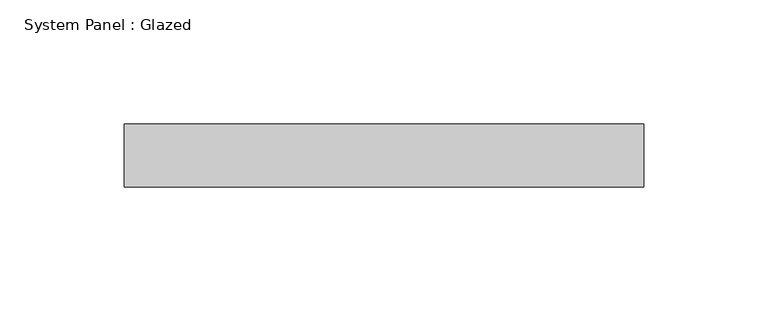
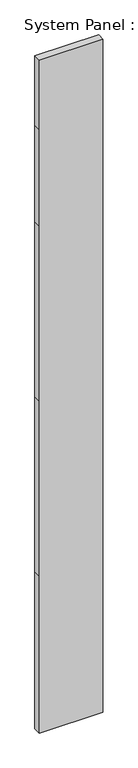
"""IFC4 building model written with IfcOpenShell, lengths in millimetres: plate geometry, System Panel : Glazed."""

from ifc_helpers import new_model, si_unit, frame, origin, place, context, project, spatial, polyline, outline, extrude, source, transform, mapped, element, save


def system_panel_glazed_9c9336f7(model_context):
    return source(origin(), model_context, "Body", "SweptSolid", [
        extrude(outline(polyline([(0.0, -104.775), (0.0, 104.775), (546.1, 104.775), (1155.7, 104.775), (1765.3, 104.775), (2101.85, 104.775), (2343.15, 104.775), (2343.15, -104.775), (2101.85, -104.775), (1765.3, -104.775), (1155.7, -104.775), (546.1, -104.775), (0.0, -104.775)])), frame((0.0, -44.45, 0.0), z_axis=(0.0, 1.0, 0.0), x_axis=(0.0, 0.0, 1.0)), (0.0, 0.0, 1.0), 25.4),
    ])


if __name__ == "__main__":
    model = new_model("IFC4")
    model_context = context("Model", 3, world=origin())
    ifc_project = project(units=[si_unit("LENGTHUNIT", "METRE", prefix="MILLI")], contexts=[model_context])
    site = spatial("IfcSite", under=ifc_project)
    building = spatial("IfcBuilding", under=site)
    placement = place(None, origin())
    system_panel_glazed_shape = system_panel_glazed_9c9336f7(model_context)
    element("IfcPlate", 1, ObjectType="System Panel : Glazed", at=placement, inside=building, context=model_context, shape_type="MappedRepresentation", body=[
        mapped(system_panel_glazed_shape, transform((0.0, 0.0, 0.0), x_axis=(1.0, 0.0, 0.0), y_axis=(0.0, 1.0, 0.0), z_axis=(0.0, 0.0, 1.0))),
    ])
    save(model, "model.ifc")
